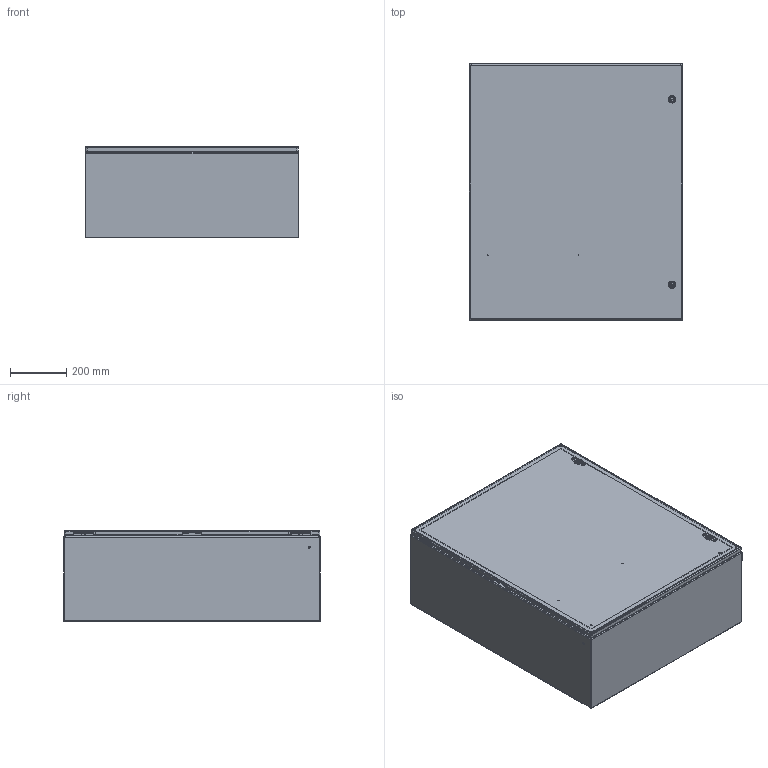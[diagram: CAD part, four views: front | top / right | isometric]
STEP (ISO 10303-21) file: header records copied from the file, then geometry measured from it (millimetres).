
FILE_DESCRIPTION (( 'STEP AP203' ), '1' );
FILE_NAME ('48860.step', '2015-03-25T06:29:54', ( 'admin' ), ( '' ), 'SwSTEP 2.0', 'SolidWorks 2010', '' );
FILE_SCHEMA (( 'CONFIG_CONTROL_DESIGN' ));
Length unit declared in the file: inch
Products named in the file (27): 87751114_87751114; 99401226_After Weld; 89106137; 87953344; 64101002; 64201001; 87541994_Installed Height; 87541995; 64202002; 64210001; 64203001; 87930615; 87928711; 87929769_Installed on Pin; 87555298; 48860; 87953397; 87953398_C''Bores; 87953485; 23271002_After Weld; 87543026; 89076399; 89076193; 89056623; 89108406; 89091784_weldment; 89091779_STD C''BORES
Assembly tree (38 placements, depth 4):
  48860
    87543026  x2
    87930615  x2
      87929769_Installed on Pin
      87928711
    89076399  x2
      89056623
      89076193
    87953397
      87953485  x2
      87953398_C''Bores
      23271002_After Weld  x6
      99401226_After Weld
    89108406
      64101002  x2
        64203001
        64210001
        64202002
        87541995
        64201001
        87541994_Installed Height
      89091784_weldment
        87751114_87751114  x2
        89091779_STD C''BORES
        87953344
        89106137
        99401226_After Weld
    87555298
Bounding box: 762 x 914.4 x 325.5 mm (x, y, z)
Volume: 4777151.8 mm3; surface area: 5397059.4 mm2
Topology: 41 solids, 41 shells, 1821 faces, 4482 edges, 2796 vertices
Faces by surface type: plane 769, cylinder 578, bspline 234, torus 140, cone 92, sphere 8
Entity records: 40656 total; most frequent: CARTESIAN_POINT 11331, ORIENTED_EDGE 5484, DIRECTION 5346, EDGE_CURVE 2742, AXIS2_PLACEMENT_3D 1967, VERTEX_POINT 1716, VECTOR 1412, LINE 1412
